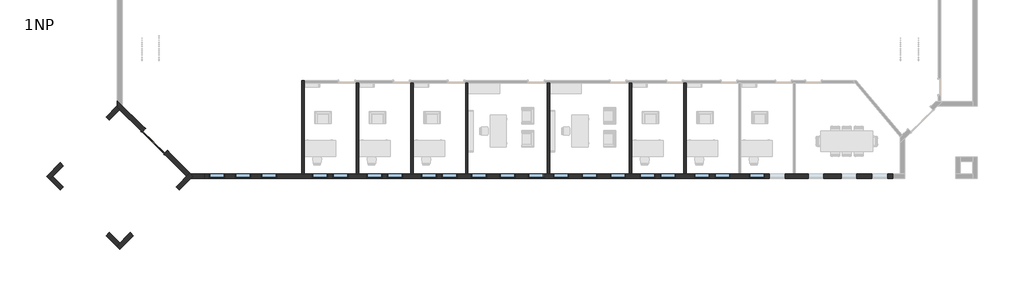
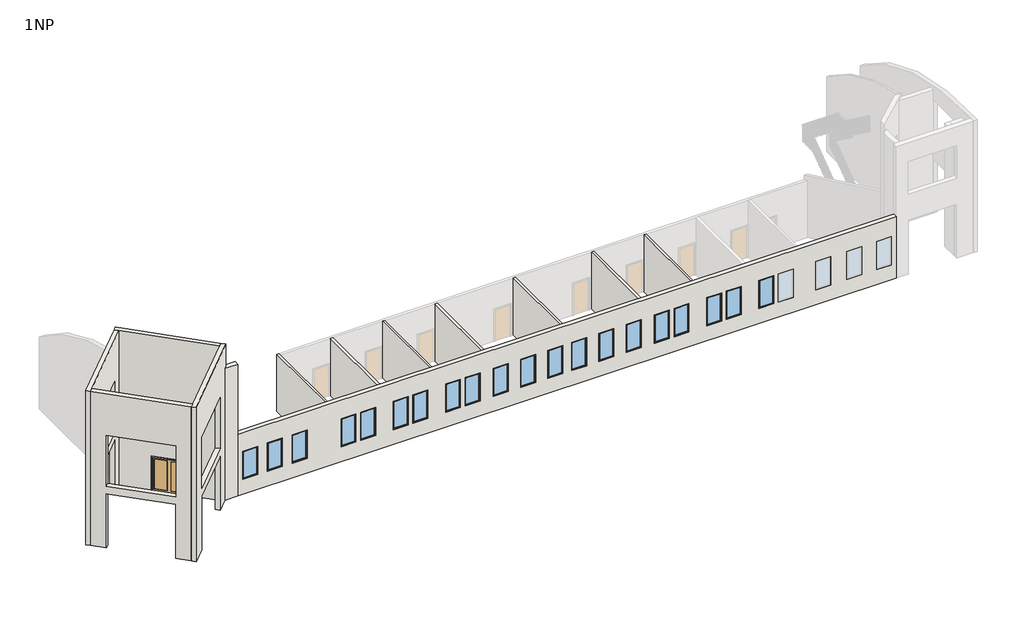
# One storey, part 1 of 3: 20 windows, 13 walls, 1 door.
"""IFC4 building model written with IfcOpenShell, lengths in millimetres."""

from ifc_helpers import new_model, si_unit, frame, origin, origin_with_axes, place, context, project, spatial, polyline, circle_curve, ellipse_curve, outline, extrude, faceted_brep, transform, mapped, element, save
from ifc_brep_helpers import plane_surface, cylinder_surface, advanced_brep
from components import m_double_glass_1_1830_x_2134mm_ce9160c6, m_fixed_0915_x_1830mm_7ee91fd3

model = new_model("IFC4")

# Units and contexts
model_context = context("Model", 3, world=origin())
ifc_project = project(units=[si_unit("LENGTHUNIT", "METRE", prefix="MILLI")], contexts=[model_context])

# Site, building, storey
site = spatial("IfcSite", under=ifc_project)
building = spatial("IfcBuilding", under=site)
storey = spatial("IfcBuildingStorey", under=building, Name="1NP", Elevation=0.0)

# Door
placement = place(None, origin())
m_double_glass_1_1830_x_2134mm_shape = m_double_glass_1_1830_x_2134mm_ce9160c6(model_context)
element("IfcDoor", 1, ObjectType="M_Double-Glass 1 : 1830 x 2134mm", at=placement, inside=storey, context=model_context, shape_type="MappedRepresentation", body=[
    mapped(m_double_glass_1_1830_x_2134mm_shape, transform((-9492.0310093, -2706.151406, 0.0), x_axis=(-0.7071067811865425, 0.7071067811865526, 0.0), y_axis=(-0.7071067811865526, -0.7071067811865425, 0.0), z_axis=(0.0, 0.0, 1.0))),
])

# Walls
element("IfcWall", 2, ObjectType="Exterior - EIFS on Mtl. Stud", at=placement, inside=storey, context=model_context, shape_type="AdvancedBrep", body=[
    advanced_brep(
    [(-6587.8076313, -4624.9448694, 0.0), (-7387.8076313, -4624.9448694, 0.0), (-7387.8076313, -4624.9448694, 8556.4380679), (-6587.8076313, -4624.9448694, 8556.4380679), (-6587.8076313, -4624.9448694, 8000.0), (-6587.8076313, -4624.9448694, 4000.0), (-6587.8076313, -4891.9448694, 0.0), (-6587.8076313, -4891.9448694, 4000.0), (-6587.8076313, -4891.9448694, 8000.0), (-6587.8076313, -4891.9448694, 8541.7849302), (-7387.8076313, -4891.9448694, 8541.7849302), (-7387.8076313, -4891.9448694, 0.0), (-7254.3076313, -4758.4448694, 0.0), (-7254.3076313, -4758.4448694, 8549.6141311)],
    [
        (0, 1),
        (1, 2),
        (2, 3),
        (3, 4),
        (4, 5),
        (5, 0),
        (6, 7),
        (7, 8),
        (8, 9),
        (9, 10),
        (10, 11),
        (11, 6),
        (0, 6),
        (11, 12),
        (12, 1),
        (3, 9, circle_curve(frame((-6587.8076313, -3782.5530793, -9232.9575956), z_axis=(1.0, 0.0, 0.0), x_axis=(0.0, -1.0, 0.0)), 17809.3296337)),
        (12, 13),
        (13, 2, ellipse_curve(frame((-8230.1994214, -3782.5530793, -9232.9575956), z_axis=(-0.7071067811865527, -0.7071067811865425, 0.0), x_axis=(0.7071067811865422, -0.7071067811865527, 0.0)), 25186.1955048, 17809.3296337)),
        (10, 13, ellipse_curve(frame((-6278.4158411, -3782.5530793, -9232.9575956), z_axis=(-0.7071067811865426, 0.7071067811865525, 0.0), x_axis=(0.7071067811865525, 0.7071067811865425, 0.0)), 25186.1955048, 17809.3296337)),
    ],
    [
        plane_surface(frame((12455.6755273, -4624.9448694, 0.0), z_axis=(0.0, 1.0, 0.0), x_axis=(-1.0, 0.0, 0.0))),
        plane_surface(frame((12455.6755273, -4891.9448694, 0.0), z_axis=(0.0, -1.0, 0.0), x_axis=(1.0, 0.0, 0.0))),
        plane_surface(frame((-6587.8076313, -4624.9448694, 0.0), z_axis=(0.0, 0.0, -1.0), x_axis=(0.0, -1.0, 0.0))),
        plane_surface(frame((-6587.8076313, -4624.9448694, 4000.0), z_axis=(1.0, 0.0, 0.0), x_axis=(0.0, -1.0, 0.0))),
        plane_surface(frame((-9352.1166743, -2660.6358263, -427.8219034), z_axis=(-0.7071067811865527, -0.7071067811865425, 0.0), x_axis=(0.7071067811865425, -0.7071067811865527, 0.0))),
        plane_surface(frame((-9352.1166743, -6856.2539125, -427.8219034), z_axis=(-0.7071067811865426, 0.7071067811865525, 0.0), x_axis=(-0.7071067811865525, -0.7071067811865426, 0.0))),
        cylinder_surface(frame((39922.6755273, -3782.5530793, -9232.9575956), z_axis=(1.0, 0.0, 0.0), x_axis=(0.0, -1.0, 0.0)), 17809.3296337),
    ],
    [
        (0, [[1, 2, 3, 4, 5, 6]]),
        (1, [[7, 8, 9, 10, 11, 12]]),
        (2, [[-1, 13, -12, 14, 15]]),
        (3, [[-6, -5, -4, 16, -9, -8, -7, -13]]),
        (4, [[-2, -15, 17, 18]]),
        (5, [[-14, -11, 19, -17]]),
        (6, [[-3, -18, -19, -10, -16]]),
    ],
),
])
element("IfcWall", 3, ObjectType="Exterior - EIFS on Mtl. Stud", at=placement, inside=storey, context=model_context, shape_type="Brep", body=[
    faceted_brep([(33755.6755273, -4624.9448694, 0.0), (28058.4255273, -4624.9448694, 0.0), (27919.9255273, -4624.9448694, 0.0), (24858.4255273, -4624.9448694, 0.0), (24719.9255273, -4624.9448694, 0.0), (21658.4255273, -4624.9448694, 0.0), (21519.9255273, -4624.9448694, 0.0), (18458.4255273, -4624.9448694, 0.0), (18319.9255273, -4624.9448694, 0.0), (13658.4255273, -4624.9448694, 0.0), (13519.9255273, -4624.9448694, 0.0), (8858.4255273, -4624.9448694, 0.0), (8719.9255273, -4624.9448694, 0.0), (5658.4255273, -4624.9448694, 0.0), (5519.9255273, -4624.9448694, 0.0), (2458.4255273, -4624.9448694, 0.0), (2319.9255273, -4624.9448694, 0.0), (-741.5744727, -4624.9448694, 0.0), (-880.0744727, -4624.9448694, 0.0), (-6587.8076313, -4624.9448694, 0.0), (-6587.8076313, -4624.9448694, 4000.0), (33755.6755273, -4624.9448694, 4000.0), (33455.6755273, -4624.9448694, 970.0), (33455.6755273, -4624.9448694, 2800.0), (32540.6755273, -4624.9448694, 2800.0), (32540.6755273, -4624.9448694, 970.0), (31640.6755273, -4624.9448694, 970.0), (31640.6755273, -4624.9448694, 2800.0), (30725.6755273, -4624.9448694, 2800.0), (30725.6755273, -4624.9448694, 970.0), (29725.6755273, -4624.9448694, 970.0), (29725.6755273, -4624.9448694, 2800.0), (28810.6755273, -4624.9448694, 2800.0), (28810.6755273, -4624.9448694, 970.0), (-5380.0744727, -4624.9448694, 970.0), (-5380.0744727, -4624.9448694, 2800.0), (-6295.0744727, -4624.9448694, 2800.0), (-6295.0744727, -4624.9448694, 970.0), (-3865.0744727, -4624.9448694, 970.0), (-3865.0744727, -4624.9448694, 2800.0), (-4780.0744727, -4624.9448694, 2800.0), (-4780.0744727, -4624.9448694, 970.0), (-2350.0744727, -4624.9448694, 970.0), (-2350.0744727, -4624.9448694, 2800.0), (-3265.0744727, -4624.9448694, 2800.0), (-3265.0744727, -4624.9448694, 970.0), (646.6755273, -4624.9448694, 970.0), (646.6755273, -4624.9448694, 2800.0), (-268.3244727, -4624.9448694, 2800.0), (-268.3244727, -4624.9448694, 970.0), (1846.6755273, -4624.9448694, 970.0), (1846.6755273, -4624.9448694, 2800.0), (931.6755273, -4624.9448694, 2800.0), (931.6755273, -4624.9448694, 970.0), (9973.4255273, -4624.9448694, 970.0), (9973.4255273, -4624.9448694, 2800.0), (9058.4255273, -4624.9448694, 2800.0), (9058.4255273, -4624.9448694, 970.0), (13319.9255273, -4624.9448694, 970.0), (13319.9255273, -4624.9448694, 2800.0), (12404.9255273, -4624.9448694, 2800.0), (12404.9255273, -4624.9448694, 970.0), (11646.4255273, -4624.9448694, 970.0), (11646.4255273, -4624.9448694, 2800.0), (10731.4255273, -4624.9448694, 2800.0), (10731.4255273, -4624.9448694, 970.0), (14773.4255273, -4624.9448694, 970.0), (14773.4255273, -4624.9448694, 2800.0), (13858.4255273, -4624.9448694, 2800.0), (13858.4255273, -4624.9448694, 970.0), (18119.9255273, -4624.9448694, 970.0), (18119.9255273, -4624.9448694, 2800.0), (17204.9255273, -4624.9448694, 2800.0), (17204.9255273, -4624.9448694, 970.0), (16446.4255273, -4624.9448694, 970.0), (16446.4255273, -4624.9448694, 2800.0), (15531.4255273, -4624.9448694, 2800.0), (15531.4255273, -4624.9448694, 970.0), (3846.6755273, -4624.9448694, 970.0), (3846.6755273, -4624.9448694, 2800.0), (2931.6755273, -4624.9448694, 2800.0), (2931.6755273, -4624.9448694, 970.0), (5046.6755273, -4624.9448694, 970.0), (5046.6755273, -4624.9448694, 2800.0), (4131.6755273, -4624.9448694, 2800.0), (4131.6755273, -4624.9448694, 970.0), (7046.6755273, -4624.9448694, 970.0), (7046.6755273, -4624.9448694, 2800.0), (6131.6755273, -4624.9448694, 2800.0), (6131.6755273, -4624.9448694, 970.0), (8246.6755273, -4624.9448694, 970.0), (8246.6755273, -4624.9448694, 2800.0), (7331.6755273, -4624.9448694, 2800.0), (7331.6755273, -4624.9448694, 970.0), (19846.6755273, -4624.9448694, 970.0), (19846.6755273, -4624.9448694, 2800.0), (18931.6755273, -4624.9448694, 2800.0), (18931.6755273, -4624.9448694, 970.0), (21046.6755273, -4624.9448694, 970.0), (21046.6755273, -4624.9448694, 2800.0), (20131.6755273, -4624.9448694, 2800.0), (20131.6755273, -4624.9448694, 970.0), (23046.6755273, -4624.9448694, 970.0), (23046.6755273, -4624.9448694, 2800.0), (22131.6755273, -4624.9448694, 2800.0), (22131.6755273, -4624.9448694, 970.0), (24246.6755273, -4624.9448694, 970.0), (24246.6755273, -4624.9448694, 2800.0), (23331.6755273, -4624.9448694, 2800.0), (23331.6755273, -4624.9448694, 970.0), (26246.6755273, -4624.9448694, 970.0), (26246.6755273, -4624.9448694, 2800.0), (25331.6755273, -4624.9448694, 2800.0), (25331.6755273, -4624.9448694, 970.0), (27446.6755273, -4624.9448694, 970.0), (27446.6755273, -4624.9448694, 2800.0), (26531.6755273, -4624.9448694, 2800.0), (26531.6755273, -4624.9448694, 970.0), (-6587.8076313, -4891.9448694, 0.0), (33755.6755273, -4891.9448694, 0.0), (33755.6755273, -4891.9448694, 4000.0), (-6587.8076313, -4891.9448694, 4000.0), (33455.6755273, -4891.9448694, 2800.0), (33455.6755273, -4891.9448694, 970.0), (32540.6755273, -4891.9448694, 970.0), (32540.6755273, -4891.9448694, 2800.0), (31640.6755273, -4891.9448694, 2800.0), (31640.6755273, -4891.9448694, 970.0), (30725.6755273, -4891.9448694, 970.0), (30725.6755273, -4891.9448694, 2800.0), (29725.6755273, -4891.9448694, 2800.0), (29725.6755273, -4891.9448694, 970.0), (28810.6755273, -4891.9448694, 970.0), (28810.6755273, -4891.9448694, 2800.0), (-5380.0744727, -4891.9448694, 2800.0), (-5380.0744727, -4891.9448694, 970.0), (-6295.0744727, -4891.9448694, 970.0), (-6295.0744727, -4891.9448694, 2800.0), (-3865.0744727, -4891.9448694, 2800.0), (-3865.0744727, -4891.9448694, 970.0), (-4780.0744727, -4891.9448694, 970.0), (-4780.0744727, -4891.9448694, 2800.0), (-2350.0744727, -4891.9448694, 2800.0), (-2350.0744727, -4891.9448694, 970.0), (-3265.0744727, -4891.9448694, 970.0), (-3265.0744727, -4891.9448694, 2800.0), (646.6755273, -4891.9448694, 2800.0), (646.6755273, -4891.9448694, 970.0), (-268.3244727, -4891.9448694, 970.0), (-268.3244727, -4891.9448694, 2800.0), (1846.6755273, -4891.9448694, 2800.0), (1846.6755273, -4891.9448694, 970.0), (931.6755273, -4891.9448694, 970.0), (931.6755273, -4891.9448694, 2800.0), (9973.4255273, -4891.9448694, 2800.0), (9973.4255273, -4891.9448694, 970.0), (9058.4255273, -4891.9448694, 970.0), (9058.4255273, -4891.9448694, 2800.0), (13319.9255273, -4891.9448694, 2800.0), (13319.9255273, -4891.9448694, 970.0), (12404.9255273, -4891.9448694, 970.0), (12404.9255273, -4891.9448694, 2800.0), (11646.4255273, -4891.9448694, 2800.0), (11646.4255273, -4891.9448694, 970.0), (10731.4255273, -4891.9448694, 970.0), (10731.4255273, -4891.9448694, 2800.0), (14773.4255273, -4891.9448694, 970.0), (13858.4255273, -4891.9448694, 970.0), (13858.4255273, -4891.9448694, 2800.0), (14773.4255273, -4891.9448694, 2800.0), (18119.9255273, -4891.9448694, 970.0), (17204.9255273, -4891.9448694, 970.0), (17204.9255273, -4891.9448694, 2800.0), (18119.9255273, -4891.9448694, 2800.0), (16446.4255273, -4891.9448694, 970.0), (15531.4255273, -4891.9448694, 970.0), (15531.4255273, -4891.9448694, 2800.0), (16446.4255273, -4891.9448694, 2800.0), (3846.6755273, -4891.9448694, 970.0), (2931.6755273, -4891.9448694, 970.0), (2931.6755273, -4891.9448694, 2800.0), (3846.6755273, -4891.9448694, 2800.0), (5046.6755273, -4891.9448694, 970.0), (4131.6755273, -4891.9448694, 970.0), (4131.6755273, -4891.9448694, 2800.0), (5046.6755273, -4891.9448694, 2800.0), (7046.6755273, -4891.9448694, 970.0), (6131.6755273, -4891.9448694, 970.0), (6131.6755273, -4891.9448694, 2800.0), (7046.6755273, -4891.9448694, 2800.0), (8246.6755273, -4891.9448694, 970.0), (7331.6755273, -4891.9448694, 970.0), (7331.6755273, -4891.9448694, 2800.0), (8246.6755273, -4891.9448694, 2800.0), (19846.6755273, -4891.9448694, 970.0), (18931.6755273, -4891.9448694, 970.0), (18931.6755273, -4891.9448694, 2800.0), (19846.6755273, -4891.9448694, 2800.0), (21046.6755273, -4891.9448694, 970.0), (20131.6755273, -4891.9448694, 970.0), (20131.6755273, -4891.9448694, 2800.0), (21046.6755273, -4891.9448694, 2800.0), (23046.6755273, -4891.9448694, 970.0), (22131.6755273, -4891.9448694, 970.0), (22131.6755273, -4891.9448694, 2800.0), (23046.6755273, -4891.9448694, 2800.0), (24246.6755273, -4891.9448694, 970.0), (23331.6755273, -4891.9448694, 970.0), (23331.6755273, -4891.9448694, 2800.0), (24246.6755273, -4891.9448694, 2800.0), (26246.6755273, -4891.9448694, 970.0), (25331.6755273, -4891.9448694, 970.0), (25331.6755273, -4891.9448694, 2800.0), (26246.6755273, -4891.9448694, 2800.0), (27446.6755273, -4891.9448694, 970.0), (26531.6755273, -4891.9448694, 970.0), (26531.6755273, -4891.9448694, 2800.0), (27446.6755273, -4891.9448694, 2800.0)], [[[0, 1, 2, 3, 4, 5, 6, 7, 8, 9, 10, 11, 12, 13, 14, 15, 16, 17, 18, 19, 20, 21], [22, 23, 24, 25], [26, 27, 28, 29], [30, 31, 32, 33], [34, 35, 36, 37], [38, 39, 40, 41], [42, 43, 44, 45], [46, 47, 48, 49], [50, 51, 52, 53], [54, 55, 56, 57], [58, 59, 60, 61], [62, 63, 64, 65], [66, 67, 68, 69], [70, 71, 72, 73], [74, 75, 76, 77], [78, 79, 80, 81], [82, 83, 84, 85], [86, 87, 88, 89], [90, 91, 92, 93], [94, 95, 96, 97], [98, 99, 100, 101], [102, 103, 104, 105], [106, 107, 108, 109], [110, 111, 112, 113], [114, 115, 116, 117]], [[118, 119, 120, 121], [122, 123, 124, 125], [126, 127, 128, 129], [130, 131, 132, 133], [134, 135, 136, 137], [138, 139, 140, 141], [142, 143, 144, 145], [146, 147, 148, 149], [150, 151, 152, 153], [154, 155, 156, 157], [158, 159, 160, 161], [162, 163, 164, 165], [166, 167, 168, 169], [170, 171, 172, 173], [174, 175, 176, 177], [178, 179, 180, 181], [182, 183, 184, 185], [186, 187, 188, 189], [190, 191, 192, 193], [194, 195, 196, 197], [198, 199, 200, 201], [202, 203, 204, 205], [206, 207, 208, 209], [210, 211, 212, 213], [214, 215, 216, 217]], [[19, 18, 17, 16, 15, 14, 13, 12, 11, 10, 9, 8, 7, 6, 5, 4, 3, 2, 1, 0, 119, 118]], [[20, 19, 118, 121]], [[21, 20, 121, 120]], [[21, 120, 119, 0]], [[23, 22, 123, 122]], [[24, 23, 122, 125]], [[25, 24, 125, 124]], [[22, 25, 124, 123]], [[27, 26, 127, 126]], [[28, 27, 126, 129]], [[29, 28, 129, 128]], [[26, 29, 128, 127]], [[31, 30, 131, 130]], [[32, 31, 130, 133]], [[33, 32, 133, 132]], [[30, 33, 132, 131]], [[34, 135, 134, 35]], [[35, 134, 137, 36]], [[136, 37, 36, 137]], [[135, 34, 37, 136]], [[39, 38, 139, 138]], [[40, 39, 138, 141]], [[41, 40, 141, 140]], [[38, 41, 140, 139]], [[43, 42, 143, 142]], [[44, 43, 142, 145]], [[45, 44, 145, 144]], [[42, 45, 144, 143]], [[47, 46, 147, 146]], [[48, 47, 146, 149]], [[49, 48, 149, 148]], [[46, 49, 148, 147]], [[51, 50, 151, 150]], [[52, 51, 150, 153]], [[53, 52, 153, 152]], [[50, 53, 152, 151]], [[55, 54, 155, 154]], [[56, 55, 154, 157]], [[57, 56, 157, 156]], [[54, 57, 156, 155]], [[59, 58, 159, 158]], [[60, 59, 158, 161]], [[61, 60, 161, 160]], [[58, 61, 160, 159]], [[62, 163, 162, 63]], [[63, 162, 165, 64]], [[64, 165, 164, 65]], [[163, 62, 65, 164]], [[67, 66, 166, 169]], [[68, 67, 169, 168]], [[69, 68, 168, 167]], [[66, 69, 167, 166]], [[71, 70, 170, 173]], [[72, 71, 173, 172]], [[73, 72, 172, 171]], [[70, 73, 171, 170]], [[75, 74, 174, 177]], [[76, 75, 177, 176]], [[77, 76, 176, 175]], [[74, 77, 175, 174]], [[79, 78, 178, 181]], [[80, 79, 181, 180]], [[81, 80, 180, 179]], [[78, 81, 179, 178]], [[83, 82, 182, 185]], [[84, 83, 185, 184]], [[85, 84, 184, 183]], [[82, 85, 183, 182]], [[87, 86, 186, 189]], [[88, 87, 189, 188]], [[89, 88, 188, 187]], [[86, 89, 187, 186]], [[91, 90, 190, 193]], [[92, 91, 193, 192]], [[93, 92, 192, 191]], [[90, 93, 191, 190]], [[95, 94, 194, 197]], [[96, 95, 197, 196]], [[97, 96, 196, 195]], [[94, 97, 195, 194]], [[99, 98, 198, 201]], [[100, 99, 201, 200]], [[101, 100, 200, 199]], [[98, 101, 199, 198]], [[103, 102, 202, 205]], [[104, 103, 205, 204]], [[105, 104, 204, 203]], [[102, 105, 203, 202]], [[107, 106, 206, 209]], [[108, 107, 209, 208]], [[109, 108, 208, 207]], [[106, 109, 207, 206]], [[111, 110, 210, 213]], [[112, 111, 213, 212]], [[113, 112, 212, 211]], [[110, 113, 211, 210]], [[115, 114, 214, 217]], [[116, 115, 217, 216]], [[117, 116, 216, 215]], [[114, 117, 215, 214]]]),
])
element("IfcWall", 4, ObjectType="Exterior - EIFS on Mtl. Stud 2side", at=placement, inside=storey, context=model_context, shape_type="Brep", body=[
    faceted_brep([(-7443.1051418, -4569.6473588, 10000.0), (-7443.1051418, -4569.6473588, 0.0), (-7631.9026524, -4758.4448694, 0.0), (-8244.6106783, -5371.1528953, 0.0), (-8244.6106783, -5371.1528953, 3500.0), (-10931.6164468, -8058.1586638, 3500.0), (-10931.6164468, -8058.1586638, 0.0), (-11544.3244727, -8670.8666897, 0.0), (-11733.1219833, -8859.6642003, 0.0), (-11733.1219833, -8859.6642003, 10000.0), (-11544.3244727, -8670.8666897, 10000.0), (-7631.9026524, -4758.4448694, 10000.0), (-8244.6106783, -5371.1528953, 4000.0), (-8244.6106783, -5371.1528953, 7300.0), (-10931.6164468, -8058.1586638, 7300.0), (-10931.6164468, -8058.1586638, 4000.0), (-7254.3076313, -4758.4448694, 0.0), (-7254.3076313, -4758.4448694, 8549.6141311), (-7254.3076313, -4758.4448694, 10000.0), (-11544.3244727, -9048.4617109, 10000.0), (-11544.3244727, -9048.4617109, 0.0), (-10742.8189362, -8246.9561744, 0.0), (-10742.8189362, -8246.9561744, 3500.0), (-8055.8131677, -5559.9504059, 3500.0), (-8055.8131677, -5559.9504059, 0.0), (-7387.8076313, -4891.9448694, 0.0), (-8055.8131677, -5559.9504059, 4000.0), (-10742.8189362, -8246.9561744, 4000.0), (-10742.8189362, -8246.9561744, 7300.0), (-8055.8131677, -5559.9504059, 7300.0), (-7387.8076313, -4624.9448694, 0.0)], [[[0, 1, 2, 3, 4, 5, 6, 7, 8, 9, 10, 11], [12, 13, 14, 15]], [[16, 17, 18, 19, 20, 21, 22, 23, 24, 25], [26, 27, 28, 29]], [[3, 2, 1, 30, 16, 25, 24]], [[4, 3, 24, 23]], [[5, 4, 23, 22]], [[6, 5, 22, 21]], [[8, 7, 6, 21, 20]], [[0, 11, 10, 9, 19, 18]], [[13, 12, 26, 29]], [[14, 13, 29, 28]], [[15, 14, 28, 27]], [[12, 15, 27, 26]], [[0, 18, 17, 16, 30, 1]], [[9, 8, 20, 19]]]),
])
element("IfcWall", 5, ObjectType="Exterior - EIFS on Mtl. Stud 2side", at=placement, inside=storey, context=model_context, shape_type="Brep", body=[
    faceted_brep([(-7631.9026524, -4758.4448694, 10000.0), (-11544.3244727, -846.0230491, 10000.0), (-11733.1219833, -657.2255385, 10000.0), (-11733.1219833, -657.2255385, 8290.0514578), (-11677.8244727, -712.5230491, 8290.0514578), (-11677.8244727, -712.5230491, 0.0), (-11544.3244727, -846.0230491, 0.0), (-10235.1162674, -2155.2312545, 0.0), (-10235.1162674, -2155.2312545, 2134.0), (-8941.1108578, -3449.2366641, 2134.0), (-8941.1108578, -3449.2366641, 0.0), (-7631.9026524, -4758.4448694, 0.0), (-11544.3244727, -468.428028, 10000.0), (-7443.1051418, -4569.6473588, 10000.0), (-7443.1051418, -4569.6473588, 0.0), (-8752.3133472, -3260.4391535, 0.0), (-8752.3133472, -3260.4391535, 2134.0), (-10046.3187568, -1966.4337439, 2134.0), (-10046.3187568, -1966.4337439, 0.0), (-11410.8244727, -601.928028, 0.0), (-11677.8244727, -334.928028, 0.0), (-11677.8244727, -334.928028, 8239.4808006), (-11677.8244727, -334.928028, 8290.0514578), (-11544.3244727, -468.428028, 8290.0514578), (-11677.8244727, -601.928028, 0.0), (-11677.8244727, -601.928028, 8290.0514578)], [[[0, 1, 2, 3, 4, 5, 6, 7, 8, 9, 10, 11]], [[12, 13, 14, 15, 16, 17, 18, 19, 20, 21, 22, 23]], [[5, 24, 20, 19, 18, 7, 6]], [[14, 11, 10, 15]], [[2, 1, 0, 13, 12]], [[4, 3, 25]], [[5, 4, 25, 22, 21, 20, 24]], [[3, 2, 12, 23, 25]], [[23, 22, 25]], [[11, 14, 13, 0]], [[8, 7, 18, 17]], [[9, 8, 17, 16]], [[10, 9, 16, 15]]]),
])
element("IfcWall", 6, ObjectType="Exterior - EIFS on Mtl. Stud 2side", at=placement, inside=storey, context=model_context, shape_type="Brep", body=[
    faceted_brep([(-11677.8244727, -601.928028, 0.0), (-12345.8300092, -1269.9335644, 0.0), (-12345.8300092, -1269.9335644, 3500.0), (-15032.8357777, -3956.939333, 3500.0), (-15032.8357777, -3956.939333, 0.0), (-15834.3413142, -4758.4448694, 0.0), (-15834.3413142, -4758.4448694, 10000.0), (-11733.1219833, -657.2255385, 10000.0), (-11733.1219833, -657.2255385, 8290.0514578), (-11677.8244727, -601.928028, 8290.0514578), (-12345.8300092, -1269.9335644, 4000.0), (-12345.8300092, -1269.9335644, 7300.0), (-15032.8357777, -3956.939333, 7300.0), (-15032.8357777, -3956.939333, 4000.0), (-11544.3244727, -846.0230491, 0.0), (-11544.3244727, -846.0230491, 8290.0514578), (-11544.3244727, -846.0230491, 10000.0), (-15456.746293, -4758.4448694, 10000.0), (-15645.5438036, -4947.24238, 10000.0), (-15645.5438036, -4947.24238, 0.0), (-15456.746293, -4758.4448694, 0.0), (-14844.0382671, -4145.7368435, 0.0), (-14844.0382671, -4145.7368435, 3500.0), (-12157.0324986, -1458.731075, 3500.0), (-12157.0324986, -1458.731075, 0.0), (-12157.0324986, -1458.731075, 4000.0), (-14844.0382671, -4145.7368435, 4000.0), (-14844.0382671, -4145.7368435, 7300.0), (-12157.0324986, -1458.731075, 7300.0), (-11677.8244727, -712.5230491, 0.0), (-11677.8244727, -712.5230491, 8290.0514578)], [[[0, 1, 2, 3, 4, 5, 6, 7, 8, 9], [10, 11, 12, 13]], [[14, 15, 16, 17, 18, 19, 20, 21, 22, 23, 24], [25, 26, 27, 28]], [[1, 0, 29, 14, 24]], [[2, 1, 24, 23]], [[3, 2, 23, 22]], [[4, 3, 22, 21]], [[5, 4, 21, 20, 19]], [[7, 6, 18, 17, 16]], [[11, 10, 25, 28]], [[12, 11, 28, 27]], [[13, 12, 27, 26]], [[10, 13, 26, 25]], [[6, 5, 19, 18]], [[8, 30, 9]], [[0, 9, 30, 29]], [[30, 15, 14, 29]], [[8, 7, 16, 15, 30]]]),
])
element("IfcWall", 7, ObjectType="Exterior - EIFS on Mtl. Stud 2side", at=placement, inside=storey, context=model_context, shape_type="SweptSolid", body=[
    extrude(outline(polyline([(133.5, 0.0), (1000.0, 0.0), (1000.0, -3500.0), (4800.0, -3500.0), (4800.0, 0.0), (5666.5, 0.0), (5666.5, -10000.0), (133.5, -10000.0), (133.5, 0.0)]), holes=[polyline([(1000.0, -4000.0), (1000.0, -7300.0), (4800.0, -7300.0), (4800.0, -4000.0), (1000.0, -4000.0)])]), frame((-15739.9425589, -4852.8436247, 0.0), z_axis=(0.7071067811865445, 0.7071067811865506, 0.0), x_axis=(0.7071067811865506, -0.7071067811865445, 0.0)), (0.0, 0.0, 1.0), 267.0),
])
element("IfcWall", 8, ObjectType="Interior - 138mm Partition (1-hr)", at=placement, inside=storey, context=model_context, shape_type="Brep", body=[
    faceted_brep([(-741.5744727, -4624.9448694, 0.0), (-741.5744727, 722.3051306, 0.0), (-741.5744727, 860.8051306, 0.0), (-741.5744727, 860.8051306, 3700.0), (-741.5744727, 722.3051306, 3700.0), (-741.5744727, -4624.9448694, 3700.0), (-880.0744727, -4624.9448694, 0.0), (-880.0744727, -4624.9448694, 3700.0), (-880.0744727, 860.8051306, 3700.0), (-880.0744727, 860.8051306, 0.0)], [[[0, 1, 2, 3, 4, 5]], [[6, 7, 8, 9]], [[2, 1, 0, 6, 9]], [[5, 4, 3, 8, 7]], [[3, 2, 9, 8]], [[0, 5, 7, 6]]]),
])
element("IfcWall", 9, ObjectType="Interior - 138mm Partition (1-hr)", at=placement, inside=storey, context=model_context, shape_type="SweptSolid", body=[
    extrude(outline(polyline([(2458.4255273, 722.3051306), (2458.4255273, -4624.9448694), (2319.9255273, -4624.9448694), (2319.9255273, 722.3051306), (2458.4255273, 722.3051306)])), origin_with_axes(), (0.0, 0.0, 1.0), 3700.0),
])
element("IfcWall", 10, ObjectType="Interior - 138mm Partition (1-hr)", at=placement, inside=storey, context=model_context, shape_type="SweptSolid", body=[
    extrude(outline(polyline([(5658.4255273, 722.3051306), (5658.4255273, -4624.9448694), (5519.9255273, -4624.9448694), (5519.9255273, 722.3051306), (5658.4255273, 722.3051306)])), origin_with_axes(), (0.0, 0.0, 1.0), 3700.0),
])
element("IfcWall", 11, ObjectType="Interior - 138mm Partition (1-hr)", at=placement, inside=storey, context=model_context, shape_type="SweptSolid", body=[
    extrude(outline(polyline([(8858.4255273, 722.3051306), (8858.4255273, -4624.9448694), (8719.9255273, -4624.9448694), (8719.9255273, 722.3051306), (8858.4255273, 722.3051306)])), origin_with_axes(), (0.0, 0.0, 1.0), 3700.0),
])
element("IfcWall", 12, ObjectType="Interior - 138mm Partition (1-hr)", at=placement, inside=storey, context=model_context, shape_type="SweptSolid", body=[
    extrude(outline(polyline([(13658.4255273, 722.3051306), (13658.4255273, -4624.9448694), (13519.9255273, -4624.9448694), (13519.9255273, 722.3051306), (13658.4255273, 722.3051306)])), origin_with_axes(), (0.0, 0.0, 1.0), 3700.0),
])
element("IfcWall", 13, ObjectType="Interior - 138mm Partition (1-hr)", at=placement, inside=storey, context=model_context, shape_type="SweptSolid", body=[
    extrude(outline(polyline([(21658.4255273, 722.3051306), (21658.4255273, -4624.9448694), (21519.9255273, -4624.9448694), (21519.9255273, 722.3051306), (21658.4255273, 722.3051306)])), origin_with_axes(), (0.0, 0.0, 1.0), 3700.0),
])
element("IfcWall", 14, ObjectType="Interior - 138mm Partition (1-hr)", at=placement, inside=storey, context=model_context, shape_type="SweptSolid", body=[
    extrude(outline(polyline([(18458.4255273, 722.3051306), (18458.4255273, -4624.9448694), (18319.9255273, -4624.9448694), (18319.9255273, 722.3051306), (18458.4255273, 722.3051306)])), origin_with_axes(), (0.0, 0.0, 1.0), 3700.0),
])

# Windows
m_fixed_0915_x_1830mm_shape = m_fixed_0915_x_1830mm_7ee91fd3(model_context)
element("IfcWindow", 15, ObjectType="M_Fixed : 0915 x 1830mm", at=placement, inside=storey, context=model_context, shape_type="MappedRepresentation", body=[
    mapped(m_fixed_0915_x_1830mm_shape, transform((-5837.5744727, -4745.4448694, 665.0), x_axis=(-1.0, 0.0, 0.0), y_axis=(0.0, -1.0, 0.0), z_axis=(0.0, 0.0, 1.0))),
])
element("IfcWindow", 16, ObjectType="M_Fixed : 0915 x 1830mm", at=placement, inside=storey, context=model_context, shape_type="MappedRepresentation", body=[
    mapped(m_fixed_0915_x_1830mm_shape, transform((-4322.5744727, -4745.4448694, 665.0), x_axis=(-1.0, 0.0, 0.0), y_axis=(0.0, -1.0, 0.0), z_axis=(0.0, 0.0, 1.0))),
])
element("IfcWindow", 17, ObjectType="M_Fixed : 0915 x 1830mm", at=placement, inside=storey, context=model_context, shape_type="MappedRepresentation", body=[
    mapped(m_fixed_0915_x_1830mm_shape, transform((-2807.5744727, -4745.4448694, 665.0), x_axis=(-1.0, 0.0, 0.0), y_axis=(0.0, -1.0, 0.0), z_axis=(0.0, 0.0, 1.0))),
])
element("IfcWindow", 18, ObjectType="M_Fixed : 0915 x 1830mm", at=placement, inside=storey, context=model_context, shape_type="MappedRepresentation", body=[
    mapped(m_fixed_0915_x_1830mm_shape, transform((189.1755273, -4745.4448694, 665.0), x_axis=(-1.0, 0.0, 0.0), y_axis=(0.0, -1.0, 0.0), z_axis=(0.0, 0.0, 1.0))),
])
element("IfcWindow", 19, ObjectType="M_Fixed : 0915 x 1830mm", at=placement, inside=storey, context=model_context, shape_type="MappedRepresentation", body=[
    mapped(m_fixed_0915_x_1830mm_shape, transform((1389.1755273, -4745.4448694, 665.0), x_axis=(-1.0, 0.0, 0.0), y_axis=(0.0, -1.0, 0.0), z_axis=(0.0, 0.0, 1.0))),
])
element("IfcWindow", 20, ObjectType="M_Fixed : 0915 x 1830mm", at=placement, inside=storey, context=model_context, shape_type="MappedRepresentation", body=[
    mapped(m_fixed_0915_x_1830mm_shape, transform((3389.1755273, -4745.4448694, 665.0), x_axis=(-1.0, 0.0, 0.0), y_axis=(0.0, -1.0, 0.0), z_axis=(0.0, 0.0, 1.0))),
])
element("IfcWindow", 21, ObjectType="M_Fixed : 0915 x 1830mm", at=placement, inside=storey, context=model_context, shape_type="MappedRepresentation", body=[
    mapped(m_fixed_0915_x_1830mm_shape, transform((4589.1755273, -4745.4448694, 665.0), x_axis=(-1.0, 0.0, 0.0), y_axis=(0.0, -1.0, 0.0), z_axis=(0.0, 0.0, 1.0))),
])
element("IfcWindow", 22, ObjectType="M_Fixed : 0915 x 1830mm", at=placement, inside=storey, context=model_context, shape_type="MappedRepresentation", body=[
    mapped(m_fixed_0915_x_1830mm_shape, transform((6589.1755273, -4745.4448694, 665.0), x_axis=(-1.0, 0.0, 0.0), y_axis=(0.0, -1.0, 0.0), z_axis=(0.0, 0.0, 1.0))),
])
element("IfcWindow", 23, ObjectType="M_Fixed : 0915 x 1830mm", at=placement, inside=storey, context=model_context, shape_type="MappedRepresentation", body=[
    mapped(m_fixed_0915_x_1830mm_shape, transform((7789.1755273, -4745.4448694, 665.0), x_axis=(-1.0, 0.0, 0.0), y_axis=(0.0, -1.0, 0.0), z_axis=(0.0, 0.0, 1.0))),
])
element("IfcWindow", 24, ObjectType="M_Fixed : 0915 x 1830mm", at=placement, inside=storey, context=model_context, shape_type="MappedRepresentation", body=[
    mapped(m_fixed_0915_x_1830mm_shape, transform((22589.1755273, -4745.4448694, 665.0), x_axis=(-1.0, 0.0, 0.0), y_axis=(0.0, -1.0, 0.0), z_axis=(0.0, 0.0, 1.0))),
])
element("IfcWindow", 25, ObjectType="M_Fixed : 0915 x 1830mm", at=placement, inside=storey, context=model_context, shape_type="MappedRepresentation", body=[
    mapped(m_fixed_0915_x_1830mm_shape, transform((23789.1755273, -4745.4448694, 665.0), x_axis=(-1.0, 0.0, 0.0), y_axis=(0.0, -1.0, 0.0), z_axis=(0.0, 0.0, 1.0))),
])
element("IfcWindow", 26, ObjectType="M_Fixed : 0915 x 1830mm", at=placement, inside=storey, context=model_context, shape_type="MappedRepresentation", body=[
    mapped(m_fixed_0915_x_1830mm_shape, transform((25789.1755273, -4745.4448694, 665.0), x_axis=(-1.0, 0.0, 0.0), y_axis=(0.0, -1.0, 0.0), z_axis=(0.0, 0.0, 1.0))),
])
element("IfcWindow", 27, ObjectType="M_Fixed : 0915 x 1830mm", at=placement, inside=storey, context=model_context, shape_type="MappedRepresentation", body=[
    mapped(m_fixed_0915_x_1830mm_shape, transform((9515.9255273, -4745.4448694, 665.0), x_axis=(-1.0, 0.0, 0.0), y_axis=(0.0, -1.0, 0.0), z_axis=(0.0, 0.0, 1.0))),
])
element("IfcWindow", 28, ObjectType="M_Fixed : 0915 x 1830mm", at=placement, inside=storey, context=model_context, shape_type="MappedRepresentation", body=[
    mapped(m_fixed_0915_x_1830mm_shape, transform((12862.4255273, -4745.4448694, 665.0), x_axis=(-1.0, 0.0, 0.0), y_axis=(0.0, -1.0, 0.0), z_axis=(0.0, 0.0, 1.0))),
])
element("IfcWindow", 29, ObjectType="M_Fixed : 0915 x 1830mm", at=placement, inside=storey, context=model_context, shape_type="MappedRepresentation", body=[
    mapped(m_fixed_0915_x_1830mm_shape, transform((19389.1755273, -4745.4448694, 665.0), x_axis=(-1.0, 0.0, 0.0), y_axis=(0.0, -1.0, 0.0), z_axis=(0.0, 0.0, 1.0))),
])
element("IfcWindow", 30, ObjectType="M_Fixed : 0915 x 1830mm", at=placement, inside=storey, context=model_context, shape_type="MappedRepresentation", body=[
    mapped(m_fixed_0915_x_1830mm_shape, transform((20589.1755273, -4745.4448694, 665.0), x_axis=(-1.0, 0.0, 0.0), y_axis=(0.0, -1.0, 0.0), z_axis=(0.0, 0.0, 1.0))),
])
element("IfcWindow", 31, ObjectType="M_Fixed : 0915 x 1830mm", at=placement, inside=storey, context=model_context, shape_type="MappedRepresentation", body=[
    mapped(m_fixed_0915_x_1830mm_shape, transform((11188.9255273, -4745.4448694, 665.0), x_axis=(-1.0, 0.0, 0.0), y_axis=(0.0, -1.0, 0.0), z_axis=(0.0, 0.0, 1.0))),
])
element("IfcWindow", 32, ObjectType="M_Fixed : 0915 x 1830mm", at=placement, inside=storey, context=model_context, shape_type="MappedRepresentation", body=[
    mapped(m_fixed_0915_x_1830mm_shape, transform((14315.9255273, -4745.4448694, 665.0), x_axis=(-1.0, 0.0, 0.0), y_axis=(0.0, -1.0, 0.0), z_axis=(0.0, 0.0, 1.0))),
])
element("IfcWindow", 33, ObjectType="M_Fixed : 0915 x 1830mm", at=placement, inside=storey, context=model_context, shape_type="MappedRepresentation", body=[
    mapped(m_fixed_0915_x_1830mm_shape, transform((17662.4255273, -4745.4448694, 665.0), x_axis=(-1.0, 0.0, 0.0), y_axis=(0.0, -1.0, 0.0), z_axis=(0.0, 0.0, 1.0))),
])
element("IfcWindow", 34, ObjectType="M_Fixed : 0915 x 1830mm", at=placement, inside=storey, context=model_context, shape_type="MappedRepresentation", body=[
    mapped(m_fixed_0915_x_1830mm_shape, transform((15988.9255273, -4745.4448694, 665.0), x_axis=(-1.0, 0.0, 0.0), y_axis=(0.0, -1.0, 0.0), z_axis=(0.0, 0.0, 1.0))),
])

save(model, "model.ifc")
